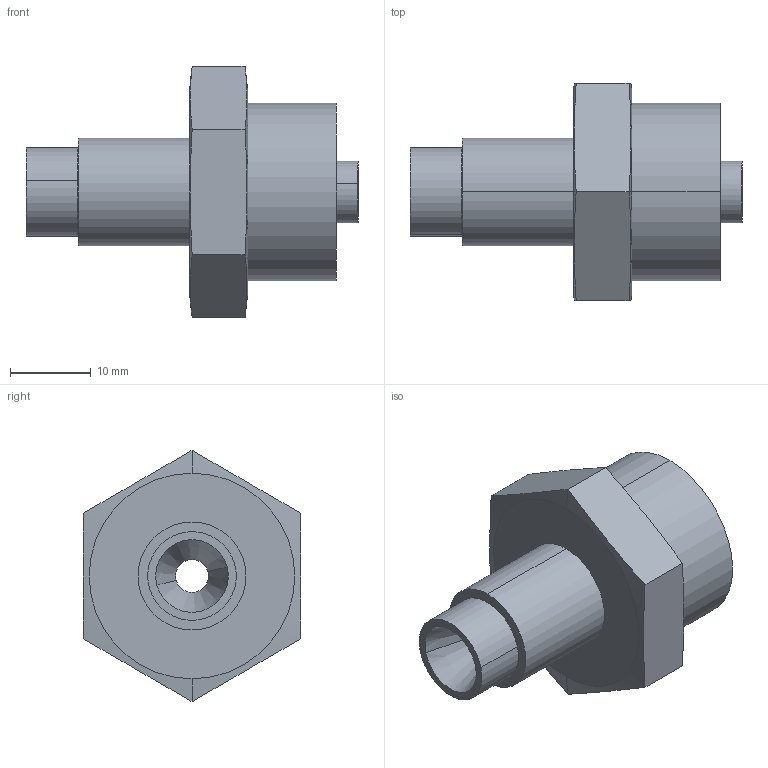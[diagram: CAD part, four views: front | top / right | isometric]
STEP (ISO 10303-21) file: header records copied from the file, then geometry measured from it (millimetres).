
FILE_DESCRIPTION (( 'STEP AP214' ), '1' );
FILE_NAME ('0000003167.STEP', '2015-11-23T10:17:02', ( 'HP' ), ( 'Hewlett-Packard Company' ), 'SwSTEP 2.0', 'SolidWorks 2014', '' );
FILE_SCHEMA (( 'AUTOMOTIVE_DESIGN' ));
Length unit declared in the file: millimetre
Products named in the file (3): 0000003166; 0000003167; 0000003165
Assembly tree (2 placements, depth 2):
  0000003167
    0000003165
    0000003166
Bounding box: 41.2 x 27 x 31.18 mm (x, y, z)
Volume: 10705.6 mm3; surface area: 5693.2 mm2
Topology: 2 solids, 2 shells, 37 faces, 78 edges, 48 vertices
Faces by surface type: plane 13, cylinder 12, cone 6, torus 6
Entity records: 1331 total; most frequent: CARTESIAN_POINT 220, DIRECTION 192, ORIENTED_EDGE 156, AXIS2_PLACEMENT_3D 84, EDGE_CURVE 78, VERTEX_POINT 48, EDGE_LOOP 44, CIRCLE 42
